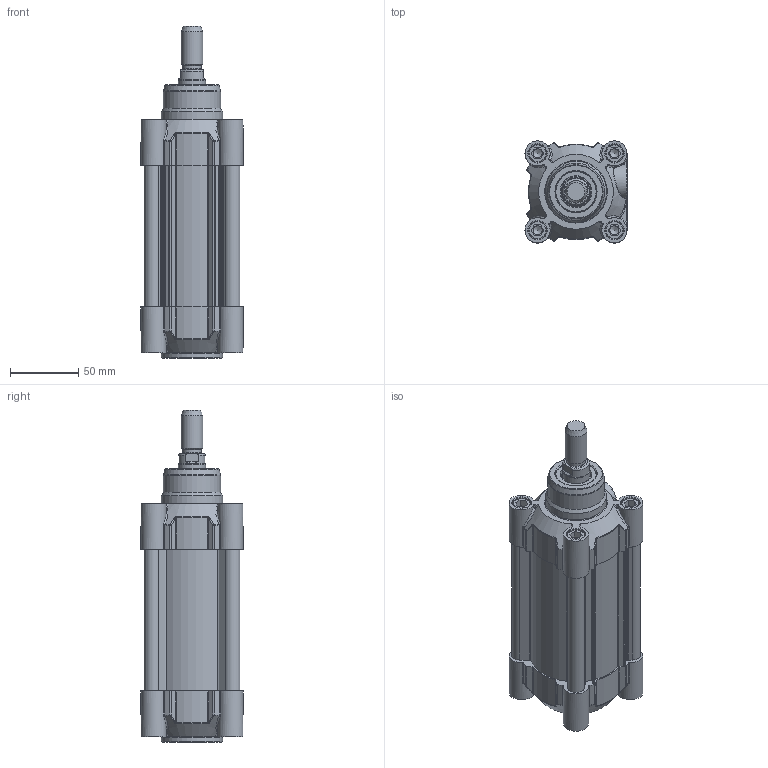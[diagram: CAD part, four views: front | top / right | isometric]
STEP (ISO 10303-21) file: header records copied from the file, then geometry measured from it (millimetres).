
FILE_DESCRIPTION(/* description */ ('CILINDRO D.E. MAGNETICO AMMORTIZZATO ISO 15552'),/* implementation_level */ '2;1');
FILE_NAME(/* name */ 'T:\Archivio Inventor\- 00 NUOVI STP PER SITO CON STELO CHE SI MUOVE\SERIE H - U\SERIE HDM\HDM063 - TUBO NUOVO\HDM063.050.GS.M.stp',/* time_stamp */ '2018-07-30T14:33:21+02:00',/* author */ ('carlo.corazza'),/* organization */ (''),/* preprocessor_version */ 'ST-DEVELOPER v16.5',/* originating_system */ 'Autodesk Inventor 2017',/* authorisation */ '');
FILE_SCHEMA (('AUTOMOTIVE_DESIGN { 1 0 10303 214 3 1 1 }'));
Length unit declared in the file: millimetre
Products named in the file (5): HDM063.050.GS.M; TP; TA; STELO-050; CORPO-050
Assembly tree (4 placements, depth 2):
  HDM063.050.GS.M
    TP
    TA
    STELO-050
    CORPO-050
Bounding box: 75 x 75 x 244 mm (x, y, z)
Volume: 435541.4 mm3; surface area: 174341.5 mm2
Topology: 4 solids, 27 shells, 1241 faces, 2936 edges, 1818 vertices
Faces by surface type: plane 368, cylinder 297, bspline 288, torus 108, cone 106, sphere 74
Full cylindrical faces by diameter (mm): 3 x2, 3.4 x2, 4.8 x2, 5.25 x2, 6.647 x8, 8 x8, 8.3 x12, 9.8 x4, 9.9 x2, 10 x6, 12 x3, 13 x8, 13.3 x8, 13.5 x1, 14.95 x2, 16 x1, 19.5 x1, 20 x1, 20.8 x1, 20.847 x1, 24 x1, 26 x2, 30 x3, 42 x1, 45 x2, 63 x1
Entity records: 40768 total; most frequent: CARTESIAN_POINT 13071, ORIENTED_EDGE 5326, DIRECTION 5100, EDGE_CURVE 2663, AXIS2_PLACEMENT_3D 2037, VERTEX_POINT 1763, EDGE_LOOP 1576, STYLED_ITEM 1245
